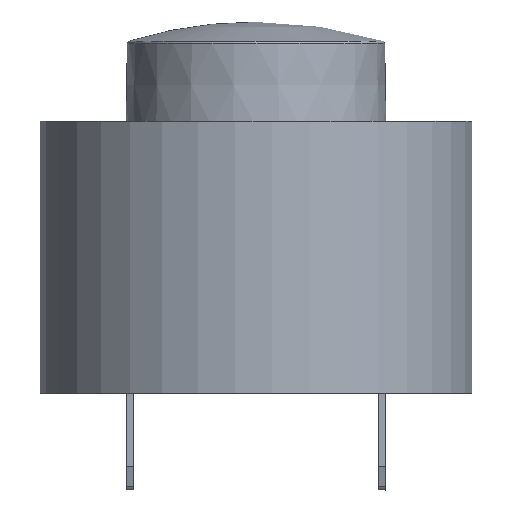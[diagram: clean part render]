
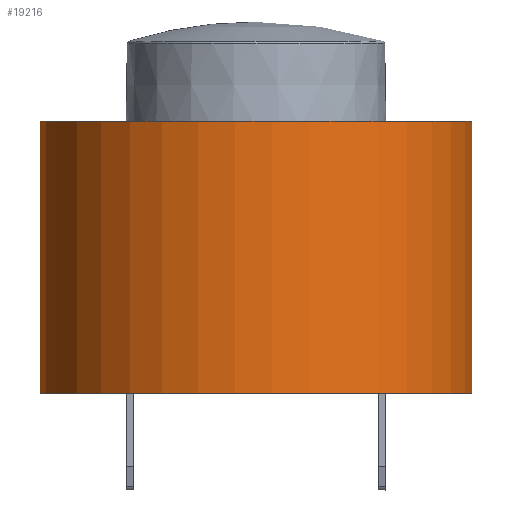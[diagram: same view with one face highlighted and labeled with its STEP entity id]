
A CAD part, front view. The second image highlights one B-rep face of the part: STEP entity #19216.
In plain terms, the highlighted cylindrical face has radius 8.75 mm (diameter 17.5 mm), a full revolution.
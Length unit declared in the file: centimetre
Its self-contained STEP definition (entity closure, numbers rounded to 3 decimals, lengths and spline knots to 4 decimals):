
#705=CYLINDRICAL_SURFACE($,#20376,0.875);
#899=FACE_BOUND($,#2205,.T.);
#1196=FACE_OUTER_BOUND($,#2204,.T.);
#2204=EDGE_LOOP($,(#12738));
#2205=EDGE_LOOP($,(#12739));
#6760=CIRCLE($,#20368,0.875);
#6764=CIRCLE($,#20377,0.875);
#7489=VERTEX_POINT($,#29028);
#7493=VERTEX_POINT($,#29041);
#9505=EDGE_CURVE($,#7489,#7489,#6760,.T.);
#9509=EDGE_CURVE($,#7493,#7493,#6764,.T.);
#12738=ORIENTED_EDGE($,*,*,#9505,.T.);
#12739=ORIENTED_EDGE($,*,*,#9509,.F.);
#19216=ADVANCED_FACE($,(#1196,#899),#705,.T.);
#20368=AXIS2_PLACEMENT_3D($,#29029,#22360,#22361);
#20376=AXIS2_PLACEMENT_3D($,#29040,#22376,#22377);
#20377=AXIS2_PLACEMENT_3D($,#29042,#22378,#22379);
#22360=DIRECTION('center_axis',(0.,0.,
-1.));
#22361=DIRECTION('ref_axis',(-0.995,0.099,0.));
#22376=DIRECTION('center_axis',(0.,0.,
1.));
#22377=DIRECTION('ref_axis',(-0.995,0.099,0.));
#22378=DIRECTION('center_axis',(0.,0.,
-1.));
#22379=DIRECTION('ref_axis',(-0.995,0.099,0.));
#29028=CARTESIAN_POINT('',(0.8707,-0.0863,0.69));
#29029=CARTESIAN_POINT('Origin',(0.,0.,
0.69));
#29040=CARTESIAN_POINT('Origin',(0.,0.,
-0.41));
#29041=CARTESIAN_POINT('',(0.8707,-0.0863,-0.41));
#29042=CARTESIAN_POINT('Origin',(0.,0.,
-0.41));
